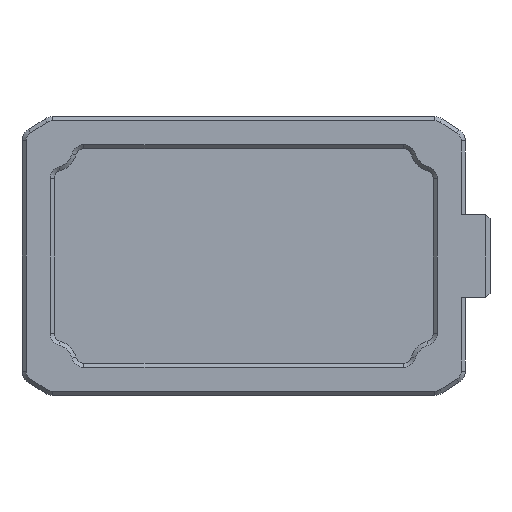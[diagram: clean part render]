
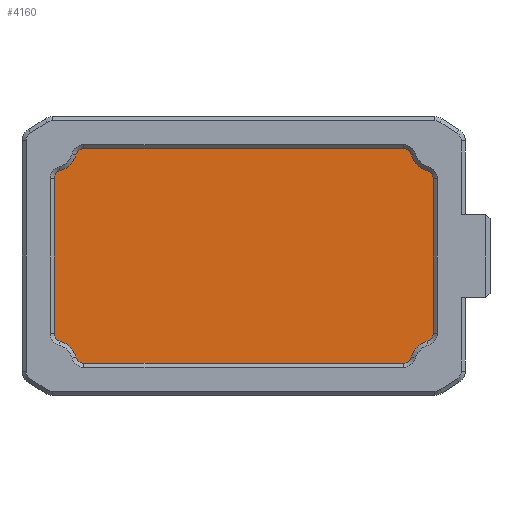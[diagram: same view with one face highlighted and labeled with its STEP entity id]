
A CAD part, front view. The second image highlights one B-rep face of the part: STEP entity #4160.
In plain terms, the highlighted planar face has unit normal (0, -1, 0).
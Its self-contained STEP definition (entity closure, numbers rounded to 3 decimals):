
#1313=CARTESIAN_POINT('',(-22.,-2.,-9.386));
#1314=DIRECTION('',(0.,-1.,0.));
#1315=DIRECTION('',(-1.,0.,0.));
#1316=AXIS2_PLACEMENT_3D('',#1313,#1314,#1315);
#1326=DIRECTION('',(1.,0.,0.));
#1327=VECTOR('',#1326,38.772);
#1328=CARTESIAN_POINT('',(-19.386,-2.,-13.));
#1329=LINE('',#1328,#1327);
#1334=CARTESIAN_POINT('',(19.386,-2.,-12.));
#1335=DIRECTION('',(0.,-1.,0.));
#1336=DIRECTION('',(0.,0.,-1.));
#1337=AXIS2_PLACEMENT_3D('',#1334,#1335,#1336);
#1347=CARTESIAN_POINT('',(23.,-2.,-13.));
#1348=DIRECTION('',(0.,-1.,0.));
#1349=DIRECTION('',(-0.267,0.,0.964));
#1350=AXIS2_PLACEMENT_3D('',#1347,#1348,#1349);
#1356=CARTESIAN_POINT('',(22.,-2.,-9.386));
#1357=DIRECTION('',(0.,1.,0.));
#1358=DIRECTION('',(1.,0.,0.));
#1359=AXIS2_PLACEMENT_3D('',#1356,#1357,#1358);
#1365=DIRECTION('',(0.,0.,1.));
#1366=VECTOR('',#1365,18.772);
#1367=CARTESIAN_POINT('',(23.,-2.,-9.386));
#1368=LINE('',#1367,#1366);
#1373=CARTESIAN_POINT('',(22.,-2.,9.386));
#1374=DIRECTION('',(0.,-1.,0.));
#1375=DIRECTION('',(1.,0.,0.));
#1376=AXIS2_PLACEMENT_3D('',#1373,#1374,#1375);
#1386=CARTESIAN_POINT('',(23.,-2.,13.));
#1387=DIRECTION('',(0.,-1.,0.));
#1388=DIRECTION('',(-0.964,0.,-0.267));
#1389=AXIS2_PLACEMENT_3D('',#1386,#1387,#1388);
#1395=CARTESIAN_POINT('',(19.386,-2.,12.));
#1396=DIRECTION('',(0.,1.,0.));
#1397=DIRECTION('',(0.,0.,1.));
#1398=AXIS2_PLACEMENT_3D('',#1395,#1396,#1397);
#1404=DIRECTION('',(-1.,0.,0.));
#1405=VECTOR('',#1404,38.772);
#1406=CARTESIAN_POINT('',(19.386,-2.,13.));
#1407=LINE('',#1406,#1405);
#1412=CARTESIAN_POINT('',(-19.386,-2.,12.));
#1413=DIRECTION('',(0.,-1.,0.));
#1414=DIRECTION('',(0.,0.,1.));
#1415=AXIS2_PLACEMENT_3D('',#1412,#1413,#1414);
#1425=CARTESIAN_POINT('',(-23.,-2.,13.));
#1426=DIRECTION('',(0.,-1.,0.));
#1427=DIRECTION('',(0.267,0.,-0.964));
#1428=AXIS2_PLACEMENT_3D('',#1425,#1426,#1427);
#1434=CARTESIAN_POINT('',(-22.,-2.,9.386));
#1435=DIRECTION('',(0.,1.,0.));
#1436=DIRECTION('',(-1.,0.,0.));
#1437=AXIS2_PLACEMENT_3D('',#1434,#1435,#1436);
#1443=DIRECTION('',(0.,0.,-1.));
#1444=VECTOR('',#1443,18.772);
#1445=CARTESIAN_POINT('',(-23.,-2.,9.386));
#1446=LINE('',#1445,#1444);
#1451=CARTESIAN_POINT('',(-19.386,-2.,-12.));
#1452=DIRECTION('',(0.,1.,0.));
#1453=DIRECTION('',(0.,0.,-1.));
#1454=AXIS2_PLACEMENT_3D('',#1451,#1452,#1453);
#1460=CARTESIAN_POINT('',(-23.,-2.,-13.));
#1461=DIRECTION('',(0.,-1.,0.));
#1462=DIRECTION('',(0.964,0.,0.267));
#1463=AXIS2_PLACEMENT_3D('',#1460,#1461,#1462);
#2800=CARTESIAN_POINT('',(-19.386,-2.,-13.));
#2801=CARTESIAN_POINT('',(19.386,-2.,-13.));
#2802=VERTEX_POINT('',#2800);
#2803=VERTEX_POINT('',#2801);
#2804=CARTESIAN_POINT('',(-20.35,-2.,-12.267));
#2805=VERTEX_POINT('',#2804);
#2806=CARTESIAN_POINT('',(-22.267,-2.,-10.35));
#2807=VERTEX_POINT('',#2806);
#2808=CARTESIAN_POINT('',(-23.,-2.,-9.386));
#2809=VERTEX_POINT('',#2808);
#2810=CARTESIAN_POINT('',(-23.,-2.,9.386));
#2811=VERTEX_POINT('',#2810);
#2812=CARTESIAN_POINT('',(-22.267,-2.,10.35));
#2813=VERTEX_POINT('',#2812);
#2814=CARTESIAN_POINT('',(-20.35,-2.,12.267));
#2815=VERTEX_POINT('',#2814);
#2816=CARTESIAN_POINT('',(-19.386,-2.,13.));
#2817=VERTEX_POINT('',#2816);
#2818=CARTESIAN_POINT('',(19.386,-2.,13.));
#2819=VERTEX_POINT('',#2818);
#2820=CARTESIAN_POINT('',(20.35,-2.,12.267));
#2821=VERTEX_POINT('',#2820);
#2822=CARTESIAN_POINT('',(22.267,-2.,10.35));
#2823=VERTEX_POINT('',#2822);
#2824=CARTESIAN_POINT('',(23.,-2.,9.386));
#2825=VERTEX_POINT('',#2824);
#2826=CARTESIAN_POINT('',(23.,-2.,-9.386));
#2827=VERTEX_POINT('',#2826);
#2828=CARTESIAN_POINT('',(22.267,-2.,-10.35));
#2829=VERTEX_POINT('',#2828);
#2830=CARTESIAN_POINT('',(20.35,-2.,-12.267));
#2831=VERTEX_POINT('',#2830);
#4122=CARTESIAN_POINT('',(0.,-2.,0.));
#4123=DIRECTION('',(0.,-1.,0.));
#4124=DIRECTION('',(1.,0.,0.));
#4125=AXIS2_PLACEMENT_3D('',#4122,#4123,#4124);
#4126=PLANE('',#4125);
#4128=ORIENTED_EDGE('',*,*,#4127,.F.);
#4130=ORIENTED_EDGE('',*,*,#4129,.T.);
#4132=ORIENTED_EDGE('',*,*,#4131,.T.);
#4133=ORIENTED_EDGE('',*,*,#4105,.F.);
#4135=ORIENTED_EDGE('',*,*,#4134,.F.);
#4137=ORIENTED_EDGE('',*,*,#4136,.T.);
#4139=ORIENTED_EDGE('',*,*,#4138,.T.);
#4141=ORIENTED_EDGE('',*,*,#4140,.F.);
#4143=ORIENTED_EDGE('',*,*,#4142,.F.);
#4145=ORIENTED_EDGE('',*,*,#4144,.T.);
#4147=ORIENTED_EDGE('',*,*,#4146,.T.);
#4149=ORIENTED_EDGE('',*,*,#4148,.F.);
#4151=ORIENTED_EDGE('',*,*,#4150,.F.);
#4153=ORIENTED_EDGE('',*,*,#4152,.T.);
#4155=ORIENTED_EDGE('',*,*,#4154,.T.);
#4157=ORIENTED_EDGE('',*,*,#4156,.F.);
#4158=EDGE_LOOP('',(#4128,#4130,#4132,#4133,#4135,#4137,#4139,#4141,#4143,#4145,
#4147,#4149,#4151,#4153,#4155,#4157));
#4159=FACE_OUTER_BOUND('',#4158,.F.);
#4160=ADVANCED_FACE('',(#4159),#4126,.T.);
#1317=CIRCLE('',#1316,1.);
#1338=CIRCLE('',#1337,1.);
#1351=CIRCLE('',#1350,2.75);
#1360=CIRCLE('',#1359,1.);
#1377=CIRCLE('',#1376,1.);
#1390=CIRCLE('',#1389,2.75);
#1399=CIRCLE('',#1398,1.);
#1416=CIRCLE('',#1415,1.);
#1429=CIRCLE('',#1428,2.75);
#1438=CIRCLE('',#1437,1.);
#1455=CIRCLE('',#1454,1.);
#1464=CIRCLE('',#1463,2.75);
#4105=EDGE_CURVE('',#2809,#2807,#1317,.T.);
#4127=EDGE_CURVE('',#2802,#2803,#1329,.T.);
#4129=EDGE_CURVE('',#2802,#2805,#1455,.T.);
#4131=EDGE_CURVE('',#2805,#2807,#1464,.T.);
#4134=EDGE_CURVE('',#2811,#2809,#1446,.T.);
#4136=EDGE_CURVE('',#2811,#2813,#1438,.T.);
#4138=EDGE_CURVE('',#2813,#2815,#1429,.T.);
#4140=EDGE_CURVE('',#2817,#2815,#1416,.T.);
#4142=EDGE_CURVE('',#2819,#2817,#1407,.T.);
#4144=EDGE_CURVE('',#2819,#2821,#1399,.T.);
#4146=EDGE_CURVE('',#2821,#2823,#1390,.T.);
#4148=EDGE_CURVE('',#2825,#2823,#1377,.T.);
#4150=EDGE_CURVE('',#2827,#2825,#1368,.T.);
#4152=EDGE_CURVE('',#2827,#2829,#1360,.T.);
#4154=EDGE_CURVE('',#2829,#2831,#1351,.T.);
#4156=EDGE_CURVE('',#2803,#2831,#1338,.T.);
